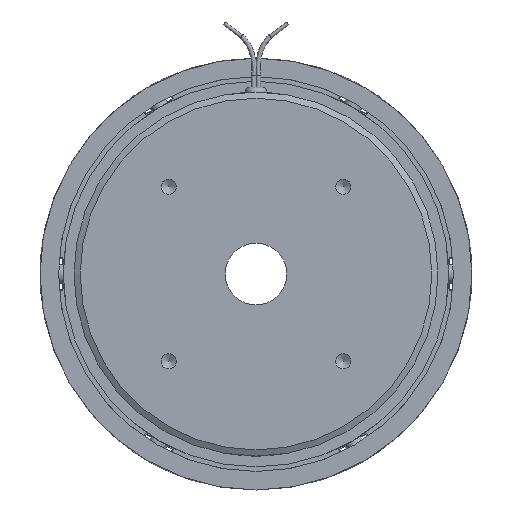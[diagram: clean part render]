
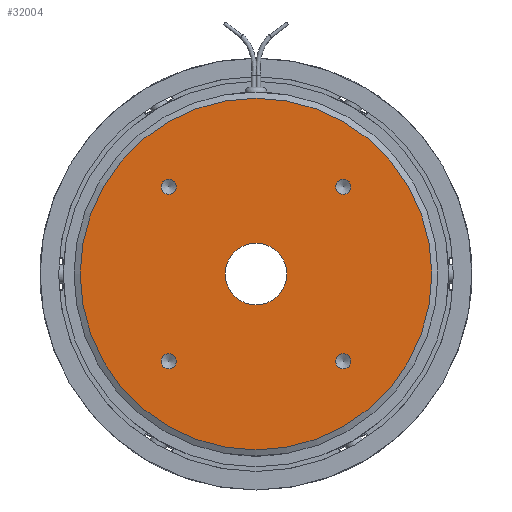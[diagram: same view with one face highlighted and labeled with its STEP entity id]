
A CAD part, left-side view. The second image highlights one B-rep face of the part: STEP entity #32004.
In plain terms, the highlighted planar face has unit normal (-1, 0, 0).
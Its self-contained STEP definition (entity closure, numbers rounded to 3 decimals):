
#180=FACE_BOUND('',#2899,.T.);
#181=FACE_BOUND('',#2900,.T.);
#182=FACE_BOUND('',#2901,.T.);
#183=FACE_BOUND('',#2902,.T.);
#184=FACE_BOUND('',#2903,.T.);
#371=PLANE('',#34523);
#1190=FACE_OUTER_BOUND('',#2898,.T.);
#2898=EDGE_LOOP('',(#21704));
#2899=EDGE_LOOP('',(#21705));
#2900=EDGE_LOOP('',(#21706));
#2901=EDGE_LOOP('',(#21707));
#2902=EDGE_LOOP('',(#21708));
#2903=EDGE_LOOP('',(#21709));
#9470=CIRCLE('',#34490,2.459);
#9472=CIRCLE('',#34494,2.459);
#9474=CIRCLE('',#34498,2.459);
#9476=CIRCLE('',#34502,2.459);
#9491=CIRCLE('',#34522,10.);
#9492=CIRCLE('',#34524,57.);
#12074=VERTEX_POINT('',#51159);
#12077=VERTEX_POINT('',#51168);
#12080=VERTEX_POINT('',#51177);
#12083=VERTEX_POINT('',#51186);
#12090=VERTEX_POINT('',#51234);
#12091=VERTEX_POINT('',#51238);
#15657=EDGE_CURVE('',#12074,#12074,#9470,.T.);
#15661=EDGE_CURVE('',#12077,#12077,#9472,.T.);
#15665=EDGE_CURVE('',#12080,#12080,#9474,.T.);
#15669=EDGE_CURVE('',#12083,#12083,#9476,.T.);
#15689=EDGE_CURVE('',#12090,#12090,#9491,.T.);
#15690=EDGE_CURVE('',#12091,#12091,#9492,.T.);
#21704=ORIENTED_EDGE('',*,*,#15690,.F.);
#21705=ORIENTED_EDGE('',*,*,#15657,.T.);
#21706=ORIENTED_EDGE('',*,*,#15661,.T.);
#21707=ORIENTED_EDGE('',*,*,#15665,.T.);
#21708=ORIENTED_EDGE('',*,*,#15669,.T.);
#21709=ORIENTED_EDGE('',*,*,#15689,.T.);
#32004=ADVANCED_FACE('',(#1190,#180,#181,#182,#183,#184),#371,.T.);
#34490=AXIS2_PLACEMENT_3D('',#51160,#40342,#40343);
#34494=AXIS2_PLACEMENT_3D('',#51169,#40352,#40353);
#34498=AXIS2_PLACEMENT_3D('',#51178,#40362,#40363);
#34502=AXIS2_PLACEMENT_3D('',#51187,#40372,#40373);
#34522=AXIS2_PLACEMENT_3D('',#51236,#40416,#40417);
#34523=AXIS2_PLACEMENT_3D('',#51237,#40418,#40419);
#34524=AXIS2_PLACEMENT_3D('',#51239,#40420,#40421);
#40342=DIRECTION('center_axis',(1.,0.,0.));
#40343=DIRECTION('ref_axis',(0.,0.,
1.));
#40352=DIRECTION('center_axis',(1.,0.,0.));
#40353=DIRECTION('ref_axis',(0.,0.,
1.));
#40362=DIRECTION('center_axis',(1.,0.,0.));
#40363=DIRECTION('ref_axis',(0.,0.,
1.));
#40372=DIRECTION('center_axis',(1.,0.,0.));
#40373=DIRECTION('ref_axis',(0.,0.,
1.));
#40416=DIRECTION('center_axis',(1.,0.,0.));
#40417=DIRECTION('ref_axis',(0.,0.,
-1.));
#40418=DIRECTION('center_axis',(-1.,0.,0.));
#40419=DIRECTION('ref_axis',(0.,0.,
1.));
#40420=DIRECTION('center_axis',(1.,0.,0.));
#40421=DIRECTION('ref_axis',(0.,0.,
-1.));
#51159=CARTESIAN_POINT('',(-15.5,-28.284,25.826));
#51160=CARTESIAN_POINT('Origin',(-15.5,-28.284,28.284));
#51168=CARTESIAN_POINT('',(-15.5,28.284,-30.743));
#51169=CARTESIAN_POINT('Origin',(-15.5,28.284,-28.284));
#51177=CARTESIAN_POINT('',(-15.5,-28.284,-30.743));
#51178=CARTESIAN_POINT('Origin',(-15.5,-28.284,-28.284));
#51186=CARTESIAN_POINT('',(-15.5,28.284,25.826));
#51187=CARTESIAN_POINT('Origin',(-15.5,28.284,28.284));
#51234=CARTESIAN_POINT('',(-15.5,-10.,0.));
#51236=CARTESIAN_POINT('Origin',(-15.5,0.,0.));
#51237=CARTESIAN_POINT('Origin',(-15.5,57.,0.));
#51238=CARTESIAN_POINT('',(-15.5,-57.,0.));
#51239=CARTESIAN_POINT('Origin',(-15.5,0.,0.));
